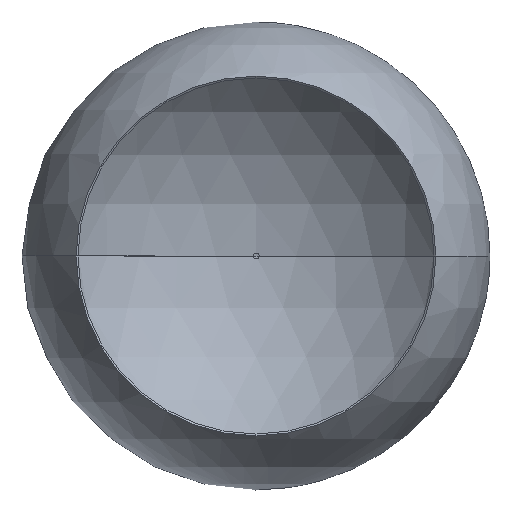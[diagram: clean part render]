
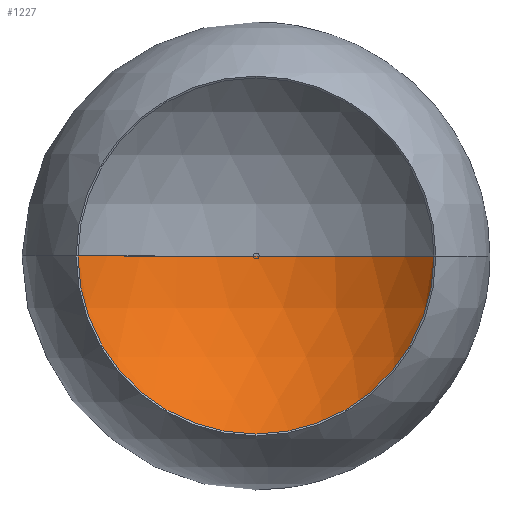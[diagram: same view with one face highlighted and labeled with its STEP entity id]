
A CAD part, front view. The second image highlights one B-rep face of the part: STEP entity #1227.
In plain terms, the highlighted spherical face has radius 198 mm.
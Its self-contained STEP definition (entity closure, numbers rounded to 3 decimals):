
#60 = AXIS2_PLACEMENT_3D ( 'NONE', #698, #695, #689 ) ;
#167 = AXIS2_PLACEMENT_3D ( 'NONE', #1223, #1274, #982 ) ;
#175 = CARTESIAN_POINT ( 'NONE',  ( 0., 124.157, 0. ) ) ;
#196 = CIRCLE ( 'NONE', #60, 198. ) ;
#246 = VERTEX_POINT ( 'NONE', #1118 ) ;
#302 = CARTESIAN_POINT ( 'NONE',  ( 152.138, -200.563, 0. ) ) ;
#320 = ORIENTED_EDGE ( 'NONE', *, *, #884, .F. ) ;
#333 = DIRECTION ( 'NONE',  ( 0., 0., -1. ) ) ;
#340 = DIRECTION ( 'NONE',  ( 0., -1., 0. ) ) ;
#386 = CARTESIAN_POINT ( 'NONE',  ( 0., -73.843, 0. ) ) ;
#436 = EDGE_CURVE ( 'NONE', #246, #943, #691, .T. ) ;
#437 = CARTESIAN_POINT ( 'NONE',  ( 0., -200.563, 0. ) ) ;
#445 = DIRECTION ( 'NONE',  ( 0., -1., 0. ) ) ;
#473 = FACE_OUTER_BOUND ( 'NONE', #1236, .T. ) ;
#579 = EDGE_CURVE ( 'NONE', #1002, #246, #196, .T. ) ;
#629 = SPHERICAL_SURFACE ( 'NONE', #167, 198. ) ;
#643 = ORIENTED_EDGE ( 'NONE', *, *, #436, .T. ) ;
#689 = DIRECTION ( 'NONE',  ( 1., 0., 0. ) ) ;
#691 = CIRCLE ( 'NONE', #937, 152.138 ) ;
#695 = DIRECTION ( 'NONE',  ( 0., 0., 1. ) ) ;
#698 = CARTESIAN_POINT ( 'NONE',  ( 0., -73.843, 0. ) ) ;
#745 = CARTESIAN_POINT ( 'NONE',  ( 0., -200.563, -152.138 ) ) ;
#841 = VERTEX_POINT ( 'NONE', #302 ) ;
#850 = AXIS2_PLACEMENT_3D ( 'NONE', #386, #1230, #1339 ) ;
#884 = EDGE_CURVE ( 'NONE', #1002, #841, #999, .T. ) ;
#937 = AXIS2_PLACEMENT_3D ( 'NONE', #1060, #445, #1311 ) ;
#943 = VERTEX_POINT ( 'NONE', #745 ) ;
#982 = DIRECTION ( 'NONE',  ( 1., 0., 0. ) ) ;
#999 = CIRCLE ( 'NONE', #850, 198. ) ;
#1002 = VERTEX_POINT ( 'NONE', #175 ) ;
#1060 = CARTESIAN_POINT ( 'NONE',  ( 0., -200.563, 0. ) ) ;
#1118 = CARTESIAN_POINT ( 'NONE',  ( -152.138, -200.563, 0. ) ) ;
#1146 = EDGE_CURVE ( 'NONE', #943, #841, #1217, .T. ) ;
#1168 = ORIENTED_EDGE ( 'NONE', *, *, #579, .T. ) ;
#1202 = ORIENTED_EDGE ( 'NONE', *, *, #1146, .T. ) ;
#1217 = CIRCLE ( 'NONE', #1233, 152.138 ) ;
#1223 = CARTESIAN_POINT ( 'NONE',  ( 0., -73.843, 0. ) ) ;
#1227 = ADVANCED_FACE ( 'NONE', ( #473 ), #629, .F. ) ;
#1230 = DIRECTION ( 'NONE',  ( 0., 0., -1. ) ) ;
#1233 = AXIS2_PLACEMENT_3D ( 'NONE', #437, #340, #333 ) ;
#1236 = EDGE_LOOP ( 'NONE', ( #320, #1168, #643, #1202 ) ) ;
#1274 = DIRECTION ( 'NONE',  ( 0., 0., 1. ) ) ;
#1311 = DIRECTION ( 'NONE',  ( 0., 0., -1. ) ) ;
#1339 = DIRECTION ( 'NONE',  ( -1., 0., 0. ) ) ;
